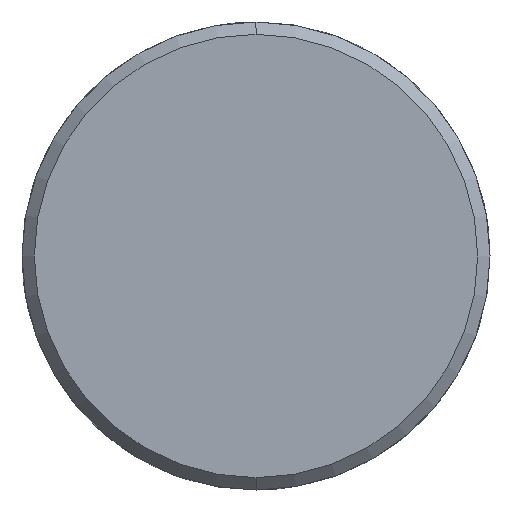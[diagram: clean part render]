
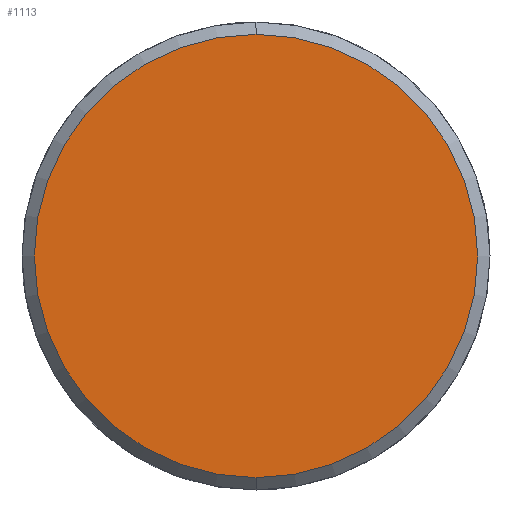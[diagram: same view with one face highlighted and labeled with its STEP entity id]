
A CAD part, left-side view. The second image highlights one B-rep face of the part: STEP entity #1113.
In plain terms, the highlighted planar face has unit normal (-1, 0, 0).
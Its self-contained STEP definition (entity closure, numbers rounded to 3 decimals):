
#1045=CARTESIAN_POINT('Vertex',(-7.,0.,-18.)) ;
#1048=CARTESIAN_POINT('Axis2P3D Location',(-7.,0.,0.)) ;
#1052=CARTESIAN_POINT('Vertex',(-7.,18.,0.)) ;
#1055=CARTESIAN_POINT('Axis2P3D Location',(-7.,0.,0.)) ;
#1059=CARTESIAN_POINT('Vertex',(-7.,0.,18.)) ;
#1081=CARTESIAN_POINT('Axis2P3D Location',(-7.,0.,0.)) ;
#1085=CARTESIAN_POINT('Vertex',(-7.,-18.,0.)) ;
#1088=CARTESIAN_POINT('Axis2P3D Location',(-7.,0.,0.)) ;
#1102=CARTESIAN_POINT('Axis2P3D Location',(-7.,0.,0.)) ;
#1049=DIRECTION('Axis2P3D Direction',(1.,0.,-0.)) ;
#1056=DIRECTION('Axis2P3D Direction',(1.,0.,-0.)) ;
#1082=DIRECTION('Axis2P3D Direction',(1.,0.,-0.)) ;
#1089=DIRECTION('Axis2P3D Direction',(1.,0.,-0.)) ;
#1103=DIRECTION('Axis2P3D Direction',(1.,0.,-0.)) ;
#1104=DIRECTION('Axis2P3D XDirection',(-0.,0.,-1.)) ;
#1050=AXIS2_PLACEMENT_3D('Circle Axis2P3D',#1048,#1049,$) ;
#1057=AXIS2_PLACEMENT_3D('Circle Axis2P3D',#1055,#1056,$) ;
#1083=AXIS2_PLACEMENT_3D('Circle Axis2P3D',#1081,#1082,$) ;
#1090=AXIS2_PLACEMENT_3D('Circle Axis2P3D',#1088,#1089,$) ;
#1105=AXIS2_PLACEMENT_3D('Plane Axis2P3D',#1102,#1103,#1104) ;
#1108=ORIENTED_EDGE('',*,*,#1054,.F.) ;
#1109=ORIENTED_EDGE('',*,*,#1092,.F.) ;
#1110=ORIENTED_EDGE('',*,*,#1087,.F.) ;
#1111=ORIENTED_EDGE('',*,*,#1061,.F.) ;
#1113=ADVANCED_FACE('351-25X46X100',(#1112),#1106,.F.) ;
#1051=CIRCLE('generated circle',#1050,18.) ;
#1058=CIRCLE('generated circle',#1057,18.) ;
#1084=CIRCLE('generated circle',#1083,18.) ;
#1091=CIRCLE('generated circle',#1090,18.) ;
#1054=EDGE_CURVE('',#1046,#1053,#1051,.T.) ;
#1061=EDGE_CURVE('',#1053,#1060,#1058,.T.) ;
#1087=EDGE_CURVE('',#1060,#1086,#1084,.T.) ;
#1092=EDGE_CURVE('',#1086,#1046,#1091,.T.) ;
#1107=EDGE_LOOP('',(#1108,#1109,#1110,#1111)) ;
#1112=FACE_OUTER_BOUND('',#1107,.T.) ;
#1106=PLANE('Plane',#1105) ;
#1046=VERTEX_POINT('',#1045) ;
#1053=VERTEX_POINT('',#1052) ;
#1060=VERTEX_POINT('',#1059) ;
#1086=VERTEX_POINT('',#1085) ;
